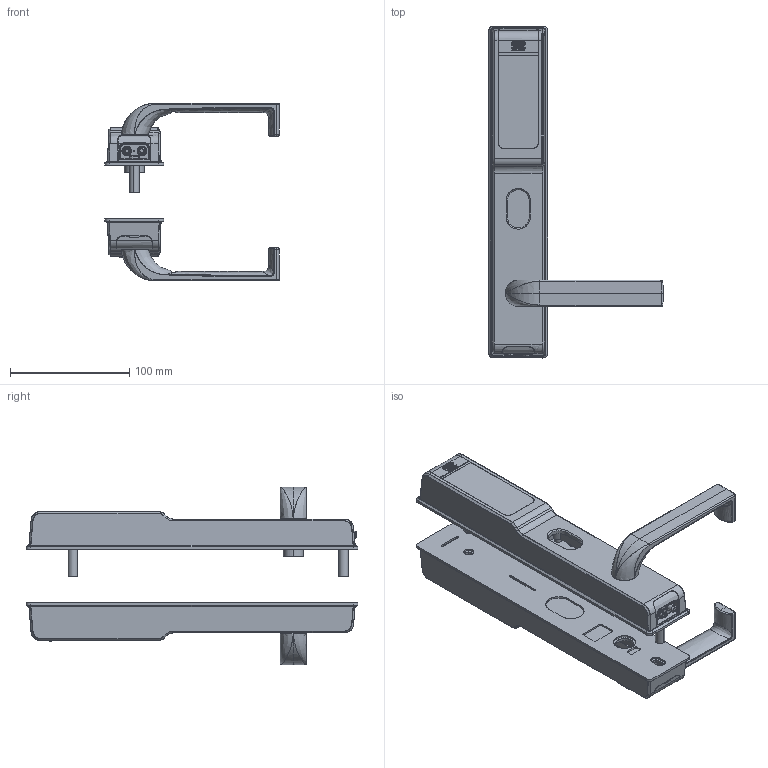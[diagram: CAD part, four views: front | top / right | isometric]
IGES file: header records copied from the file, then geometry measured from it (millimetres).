
Start section: SolidWorks IGES file using analytic representation for surfaces
Global section: file name: C:\UGS\SW_working_directory\CTX3770 IGS assy - 1.IGS; native system: SolidWorks 2016; preprocessor: SolidWorks 2016; author: cracas; date: 160927.151920; units: millimetre
Bounding box: 146.2 x 278.4 x 149.3 mm (x, y, z)
Surface area: 154218.2 mm2 (no closed solid volume)
Topology: 0 solids, 0 shells, 716 faces, 11269 edges, 11259 vertices
Faces by surface type: bspline 435, revolution 281
